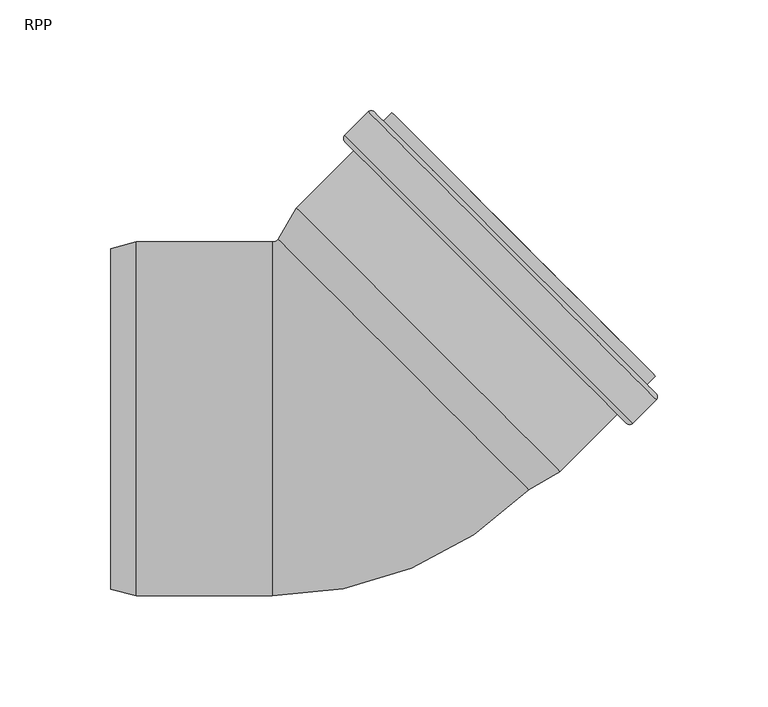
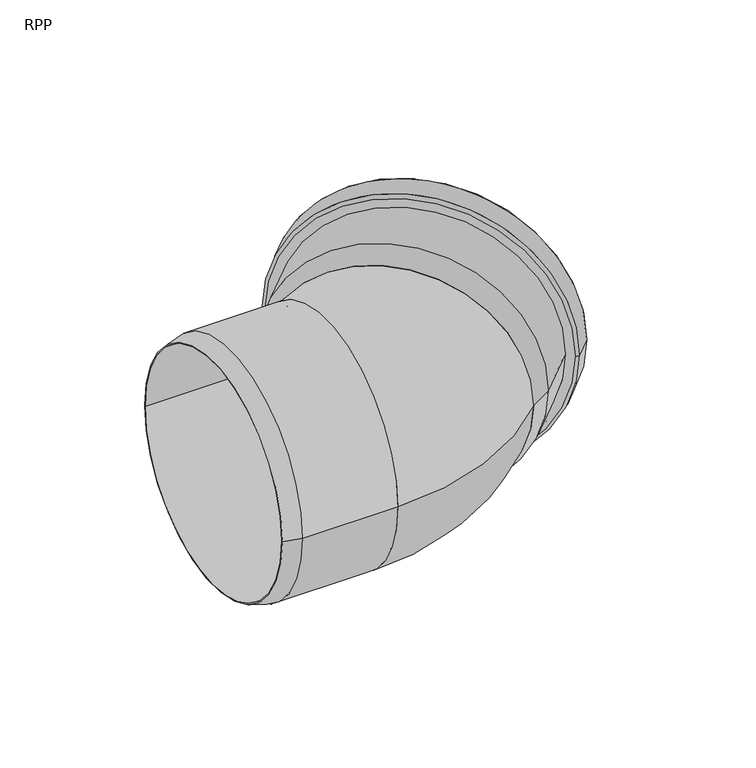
"""IFC4 building model written with IfcOpenShell, lengths in millimetres: pipe fitting geometry, RAUPIANO PLUS Bend : RPP."""

from ifc_helpers import new_model, si_unit, point, frame, origin, place, context, project, spatial, polyline, circle_curve, ellipse_curve, trimmed, source, transform, mapped, element, save
from ifc_brep_helpers import plane_surface, cylinder_surface, revolved_surface, advanced_brep


def rpp_7ac03bf6(model_context):
    return source(origin(), model_context, "Body", "AdvancedBrep", [
        advanced_brep(
        [(78.3165747, -29.110514, 0.0), (-29.110514, 78.3165747, 0.0), (-20.7309585, 92.8303906, 0.0), (92.8303906, -20.7309585, 0.0), (95.2250468, -23.8517352, 0.0), (-23.8517352, 95.2250468, 0.0), (-31.9655121, 81.1715729, 0.0), (81.1715729, -31.9655121, 0.0), (121.1938167, 2.1170347, 0.0), (2.1170347, 121.1938167, 0.0), (138.6593542, 8.5517064, 0.0), (8.5517064, 138.6593542, 0.0), (-1.9841846, 128.1234631, 0.0), (128.1234631, -1.9841846, 0.0), (138.3765115, 19.2997295, 0.0), (19.2997295, 138.3765115, 0.0), (15.4813529, 134.5581349, 0.0), (134.5581349, 15.4813529, 0.0), (129.042702, 15.4813529, 0.0), (15.4813529, 129.042702, 0.0), (22.057446, 135.618795, 0.0), (135.618795, 22.057446, 0.0), (127.062803, 2.4705881, 0.0), (2.4705881, 127.062803, 0.0), (9.6123666, 134.2045815, 0.0), (134.2045815, 9.6123666, 0.0), (7.6324676, 121.1938167, 0.0), (121.1938167, 7.6324676, 0.0), (-1.9841846, 125.295036, 0.0), (125.295036, -1.9841846, 0.0), (138.6593542, 11.3801336, 0.0), (11.3801336, 138.6593542, 0.0), (10.3194734, 134.2045815, 0.0), (134.2045815, 10.3194734, 0.0), (126.3556962, 2.4705881, 0.0), (2.4705881, 126.3556962, 0.0)],
        [
            (0, 1, circle_curve(frame((24.6030304, 24.6030304, 0.0), z_axis=(-0.7071067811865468, -0.7071067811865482, 0.0), x_axis=(-0.7071067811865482, 0.7071067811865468, 0.0)), 75.9624229)),
            (1, 2),
            (2, 3, circle_curve(frame((36.0497161, 36.0497161, 0.0), z_axis=(0.7071067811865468, 0.7071067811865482, 0.0), x_axis=(-0.7071067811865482, 0.7071067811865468, 0.0)), 80.3)),
            (3, 0),
            (4, 5, circle_curve(frame((35.6866558, 35.6866558, 0.0), z_axis=(-0.7071067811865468, -0.7071067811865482, 0.0), x_axis=(-0.7071067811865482, 0.7071067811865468, 0.0)), 84.2)),
            (5, 6),
            (6, 7, circle_curve(frame((24.6030304, 24.6030304, 0.0), z_axis=(0.7071067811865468, 0.7071067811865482, 0.0), x_axis=(-0.7071067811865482, 0.7071067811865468, 0.0)), 80.0)),
            (7, 4),
            (8, 9, circle_curve(frame((61.6554257, 61.6554257, 0.0), z_axis=(-0.7071067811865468, -0.7071067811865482, 0.0), x_axis=(-0.7071067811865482, 0.7071067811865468, 0.0)), 84.2)),
            (9, 5),
            (4, 8),
            (10, 11, circle_curve(frame((73.6055303, 73.6055303, 0.0), z_axis=(-0.7071067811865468, -0.7071067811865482, 0.0), x_axis=(-0.7071067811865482, 0.7071067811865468, 0.0)), 92.0)),
            (11, 12),
            (12, 13, circle_curve(frame((63.0696393, 63.0696393, 0.0), z_axis=(0.7071067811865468, 0.7071067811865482, 0.0), x_axis=(-0.7071067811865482, 0.7071067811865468, 0.0)), 92.0)),
            (13, 10),
            (14, 15, circle_curve(frame((78.8381205, 78.8381205, 0.0), z_axis=(-0.7071067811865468, -0.7071067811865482, 0.0), x_axis=(-0.7071067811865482, 0.7071067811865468, 0.0)), 84.2)),
            (15, 16),
            (16, 17, circle_curve(frame((75.0197439, 75.0197439, 0.0), z_axis=(0.7071067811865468, 0.7071067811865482, 0.0), x_axis=(-0.7071067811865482, 0.7071067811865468, 0.0)), 84.2)),
            (17, 14),
            (18, 19, circle_curve(frame((72.2620274, 72.2620274, 0.0), z_axis=(-0.7071067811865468, -0.7071067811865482, 0.0), x_axis=(-0.7071067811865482, 0.7071067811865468, 0.0)), 80.3)),
            (19, 20),
            (20, 21, circle_curve(frame((78.8381205, 78.8381205, 0.0), z_axis=(0.7071067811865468, 0.7071067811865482, 0.0), x_axis=(-0.7071067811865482, 0.7071067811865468, 0.0)), 80.3)),
            (21, 18),
            (22, 23, circle_curve(frame((64.7666956, 64.7666956, 0.0), z_axis=(-0.7071067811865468, -0.7071067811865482, 0.0), x_axis=(-0.7071067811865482, 0.7071067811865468, 0.0)), 88.1)),
            (23, 24),
            (24, 25, circle_curve(frame((71.908474, 71.908474, 0.0), z_axis=(0.7071067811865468, 0.7071067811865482, 0.0), x_axis=(-0.7071067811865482, 0.7071067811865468, 0.0)), 88.1)),
            (25, 22),
            (2, 26),
            (26, 27, circle_curve(frame((64.4131422, 64.4131422, 0.0), z_axis=(0.7071067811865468, 0.7071067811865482, 0.0), x_axis=(-0.7071067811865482, 0.7071067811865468, 0.0)), 80.3)),
            (27, 3),
            (1, 0, circle_curve(frame((24.6030304, 24.6030304, 0.0), z_axis=(-0.7071067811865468, -0.7071067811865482, 0.0), x_axis=(0.7071067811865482, -0.7071067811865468, 0.0)), 75.9624229)),
            (3, 2, circle_curve(frame((36.0497161, 36.0497161, 0.0), z_axis=(0.7071067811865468, 0.7071067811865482, 0.0), x_axis=(0.7071067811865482, -0.7071067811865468, 0.0)), 80.3)),
            (6, 7, circle_curve(frame((24.6030304, 24.6030304, 0.0), z_axis=(-0.7071067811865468, -0.7071067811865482, 0.0), x_axis=(0.7071067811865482, -0.7071067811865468, 0.0)), 80.0)),
            (5, 4, circle_curve(frame((35.6866558, 35.6866558, 0.0), z_axis=(-0.7071067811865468, -0.7071067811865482, 0.0), x_axis=(0.7071067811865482, -0.7071067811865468, 0.0)), 84.2)),
            (9, 8, circle_curve(frame((61.6554257, 61.6554257, 0.0), z_axis=(-0.7071067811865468, -0.7071067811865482, 0.0), x_axis=(0.7071067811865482, -0.7071067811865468, 0.0)), 84.2)),
            (28, 29, circle_curve(frame((61.6554257, 61.6554257, 0.0), z_axis=(-0.7071067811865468, -0.7071067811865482, 0.0), x_axis=(0.7071067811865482, -0.7071067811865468, 0.0)), 90.0)),
            (29, 28, circle_curve(frame((61.6554257, 61.6554257, 0.0), z_axis=(-0.7071067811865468, -0.7071067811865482, 0.0), x_axis=(-0.7071067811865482, 0.7071067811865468, 0.0)), 90.0)),
            (11, 10, circle_curve(frame((73.6055303, 73.6055303, 0.0), z_axis=(-0.7071067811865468, -0.7071067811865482, 0.0), x_axis=(0.7071067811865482, -0.7071067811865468, 0.0)), 92.0)),
            (13, 12, circle_curve(frame((63.0696393, 63.0696393, 0.0), z_axis=(0.7071067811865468, 0.7071067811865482, 0.0), x_axis=(0.7071067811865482, -0.7071067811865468, 0.0)), 92.0)),
            (30, 31, circle_curve(frame((75.0197439, 75.0197439, 0.0), z_axis=(0.7071067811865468, 0.7071067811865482, 0.0), x_axis=(0.7071067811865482, -0.7071067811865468, 0.0)), 90.0)),
            (31, 30, circle_curve(frame((75.0197439, 75.0197439, 0.0), z_axis=(0.7071067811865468, 0.7071067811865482, 0.0), x_axis=(-0.7071067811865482, 0.7071067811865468, 0.0)), 90.0)),
            (16, 17, circle_curve(frame((75.0197439, 75.0197439, 0.0), z_axis=(-0.7071067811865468, -0.7071067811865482, 0.0), x_axis=(0.7071067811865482, -0.7071067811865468, 0.0)), 84.2)),
            (15, 14, circle_curve(frame((78.8381205, 78.8381205, 0.0), z_axis=(-0.7071067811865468, -0.7071067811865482, 0.0), x_axis=(0.7071067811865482, -0.7071067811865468, 0.0)), 84.2)),
            (20, 21, circle_curve(frame((78.8381205, 78.8381205, 0.0), z_axis=(-0.7071067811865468, -0.7071067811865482, 0.0), x_axis=(0.7071067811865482, -0.7071067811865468, 0.0)), 80.3)),
            (19, 18, circle_curve(frame((72.2620274, 72.2620274, 0.0), z_axis=(-0.7071067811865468, -0.7071067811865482, 0.0), x_axis=(0.7071067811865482, -0.7071067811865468, 0.0)), 80.3)),
            (32, 33, circle_curve(frame((72.2620274, 72.2620274, 0.0), z_axis=(-0.7071067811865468, -0.7071067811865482, 0.0), x_axis=(0.7071067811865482, -0.7071067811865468, 0.0)), 87.6)),
            (33, 32, circle_curve(frame((72.2620274, 72.2620274, 0.0), z_axis=(-0.7071067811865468, -0.7071067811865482, 0.0), x_axis=(-0.7071067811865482, 0.7071067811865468, 0.0)), 87.6)),
            (23, 22, circle_curve(frame((64.7666956, 64.7666956, 0.0), z_axis=(-0.7071067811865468, -0.7071067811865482, 0.0), x_axis=(0.7071067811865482, -0.7071067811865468, 0.0)), 88.1)),
            (25, 24, circle_curve(frame((71.908474, 71.908474, 0.0), z_axis=(0.7071067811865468, 0.7071067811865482, 0.0), x_axis=(0.7071067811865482, -0.7071067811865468, 0.0)), 88.1)),
            (34, 35, circle_curve(frame((64.4131422, 64.4131422, 0.0), z_axis=(0.7071067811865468, 0.7071067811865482, 0.0), x_axis=(0.7071067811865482, -0.7071067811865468, 0.0)), 87.6)),
            (35, 34, circle_curve(frame((64.4131422, 64.4131422, 0.0), z_axis=(0.7071067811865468, 0.7071067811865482, 0.0), x_axis=(-0.7071067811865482, 0.7071067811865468, 0.0)), 87.6)),
            (26, 27, circle_curve(frame((64.4131422, 64.4131422, 0.0), z_axis=(-0.7071067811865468, -0.7071067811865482, 0.0), x_axis=(0.7071067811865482, -0.7071067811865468, 0.0)), 80.3)),
            (12, 28, circle_curve(frame((-0.569971, 126.7092496, 0.0), z_axis=(0.0, 0.0, 1.0), x_axis=(0.7071067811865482, -0.7071067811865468, 0.0)), 2.0)),
            (29, 13, circle_curve(frame((126.7092496, -0.569971, 0.0), z_axis=(0.0, 0.0, 1.0), x_axis=(-0.7071067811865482, 0.7071067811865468, 0.0)), 2.0)),
            (31, 11, circle_curve(frame((9.96592, 137.2451406, 0.0), z_axis=(0.0, 0.0, 1.0), x_axis=(0.7071067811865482, -0.7071067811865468, 0.0)), 2.0)),
            (10, 30, circle_curve(frame((137.2451406, 9.96592, 0.0), z_axis=(0.0, 0.0, 1.0), x_axis=(-0.7071067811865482, 0.7071067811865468, 0.0)), 2.0)),
            (24, 32, circle_curve(frame((9.96592, 133.8510281, 0.0), z_axis=(0.0, 0.0, -1.0), x_axis=(0.7071067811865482, -0.7071067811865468, 0.0)), 0.5)),
            (33, 25, circle_curve(frame((133.8510281, 9.96592, 0.0), z_axis=(0.0, 0.0, -1.0), x_axis=(-0.7071067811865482, 0.7071067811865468, 0.0)), 0.5)),
            (35, 23, circle_curve(frame((2.8241415, 126.7092496, 0.0), z_axis=(0.0, 0.0, -1.0), x_axis=(0.7071067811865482, -0.7071067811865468, 0.0)), 0.5)),
            (22, 34, circle_curve(frame((126.7092496, 2.8241415, 0.0), z_axis=(0.0, 0.0, -1.0), x_axis=(-0.7071067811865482, 0.7071067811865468, 0.0)), 0.5)),
        ],
        [
            revolved_surface(polyline([(-20.7309585, 92.8303906, 0.0), (-29.110514, 78.3165747, 0.0)]), (24.6030304, 24.6030304, 0.0), (0.7071067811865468, 0.7071067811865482, 0.0)),
            revolved_surface(polyline([(-31.9655121, 81.1715729, 0.0), (-23.8517352, 95.2250468, 0.0)]), (24.6030304, 24.6030304, 0.0), (0.7071067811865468, 0.7071067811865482, 0.0)),
            cylinder_surface(frame((24.6030304, 24.6030304, 0.0), z_axis=(0.7071067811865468, 0.7071067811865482, 0.0), x_axis=(-0.7071067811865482, 0.7071067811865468, 0.0)), 84.2),
            cylinder_surface(frame((24.6030304, 24.6030304, 0.0), z_axis=(0.7071067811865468, 0.7071067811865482, 0.0), x_axis=(-0.7071067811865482, 0.7071067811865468, 0.0)), 92.0),
            revolved_surface(polyline([(22.057445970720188, 135.61879502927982, 0.0), (15.481352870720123, 129.04270192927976, 0.0)]), (24.6030304, 24.6030304, 0.0), (0.7071067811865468, 0.7071067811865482, 0.0)),
            revolved_surface(polyline([(9.612366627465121, 134.20458147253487, 0.0), (2.470588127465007, 127.06280297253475, 0.0)]), (24.6030304, 24.6030304, 0.0), (0.7071067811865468, 0.7071067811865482, 0.0)),
            revolved_surface(polyline([(7.632467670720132, 121.19381672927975, 0.0), (-20.73095847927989, 92.83039057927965, 0.0)]), (24.6030304, 24.6030304, 0.0), (0.7071067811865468, 0.7071067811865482, 0.0)),
            revolved_surface(polyline([(92.8303906, -20.7309585, 0.0), (78.3165747, -29.110514, 0.0)]), (24.6030304, 24.6030304, 0.0), (0.7071067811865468, 0.7071067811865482, 0.0)),
            plane_surface(frame((24.6030304, 24.6030304, 0.0), z_axis=(-0.7071067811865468, -0.7071067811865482, 0.0), x_axis=(0.7071067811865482, -0.7071067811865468, 0.0))),
            revolved_surface(polyline([(81.1715729, -31.9655121, 0.0), (95.2250468, -23.8517352, 0.0)]), (24.6030304, 24.6030304, 0.0), (0.7071067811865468, 0.7071067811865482, 0.0)),
            cylinder_surface(frame((24.6030304, 24.6030304, 0.0), z_axis=(0.7071067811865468, 0.7071067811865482, 0.0), x_axis=(0.7071067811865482, -0.7071067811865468, 0.0)), 84.2),
            plane_surface(frame((61.6554257, 61.6554257, 0.0), z_axis=(-0.7071067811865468, -0.7071067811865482, 0.0), x_axis=(0.7071067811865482, -0.7071067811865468, 0.0))),
            cylinder_surface(frame((24.6030304, 24.6030304, 0.0), z_axis=(0.7071067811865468, 0.7071067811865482, 0.0), x_axis=(0.7071067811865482, -0.7071067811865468, 0.0)), 92.0),
            plane_surface(frame((75.0197439, 75.0197439, 0.0), z_axis=(0.7071067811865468, 0.7071067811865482, 0.0), x_axis=(0.7071067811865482, -0.7071067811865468, 0.0))),
            plane_surface(frame((78.8381205, 78.8381205, 0.0), z_axis=(0.7071067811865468, 0.7071067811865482, 0.0), x_axis=(0.7071067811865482, -0.7071067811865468, 0.0))),
            revolved_surface(polyline([(135.61879502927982, 22.05744597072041, 0.0), (129.04270192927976, 15.481352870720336, 0.0)]), (24.6030304, 24.6030304, 0.0), (0.7071067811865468, 0.7071067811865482, 0.0)),
            plane_surface(frame((72.2620274, 72.2620274, 0.0), z_axis=(-0.7071067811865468, -0.7071067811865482, 0.0), x_axis=(0.7071067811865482, -0.7071067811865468, 0.0))),
            revolved_surface(polyline([(134.20458147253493, 9.612366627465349, 0.0), (127.0628029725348, 2.47058812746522, 0.0)]), (24.6030304, 24.6030304, 0.0), (0.7071067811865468, 0.7071067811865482, 0.0)),
            plane_surface(frame((64.4131422, 64.4131422, 0.0), z_axis=(0.7071067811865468, 0.7071067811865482, 0.0), x_axis=(0.7071067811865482, -0.7071067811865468, 0.0))),
            revolved_surface(polyline([(121.19381672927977, 7.632467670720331, 0.0), (92.83039057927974, -20.730958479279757, 0.0)]), (24.6030304, 24.6030304, 0.0), (0.7071067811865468, 0.7071067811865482, 0.0)),
            revolved_surface(trimmed(ellipse_curve(frame((-0.569971, 126.7092496, 0.0), z_axis=(0.0, 0.0, -1.0), x_axis=(0.7071067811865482, -0.7071067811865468, 0.0)), 2.0, 2.0), [point((-1.9841846, 125.295036, 0.0))], [point((-1.9841846, 128.1234631, 0.0))], True, "CARTESIAN"), (24.6030304, 24.6030304, 0.0), (0.7071067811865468, 0.7071067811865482, 0.0)),
            revolved_surface(trimmed(ellipse_curve(frame((9.96592, 137.2451406, 0.0), z_axis=(0.0, 0.0, -1.0), x_axis=(0.7071067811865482, -0.7071067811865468, 0.0)), 2.0, 2.0), [point((8.5517064, 138.6593542, 0.0))], [point((11.3801336, 138.6593542, 0.0))], True, "CARTESIAN"), (24.6030304, 24.6030304, 0.0), (0.7071067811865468, 0.7071067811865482, 0.0)),
            revolved_surface(trimmed(ellipse_curve(frame((9.96592, 133.8510281, 0.0), z_axis=(0.0, 0.0, 1.0), x_axis=(0.7071067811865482, -0.7071067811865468, 0.0)), 0.5, 0.5), [point((10.3194734, 134.2045815, 0.0))], [point((9.6123666, 134.2045815, 0.0))], True, "CARTESIAN"), (24.6030304, 24.6030304, 0.0), (0.7071067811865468, 0.7071067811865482, 0.0)),
            revolved_surface(trimmed(ellipse_curve(frame((2.8241415, 126.7092496, 0.0), z_axis=(0.0, 0.0, 1.0), x_axis=(0.7071067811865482, -0.7071067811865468, 0.0)), 0.5, 0.5), [point((2.4705881, 127.062803, 0.0))], [point((2.4705881, 126.3556962, 0.0))], True, "CARTESIAN"), (24.6030304, 24.6030304, 0.0), (0.7071067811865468, 0.7071067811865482, 0.0)),
            revolved_surface(trimmed(ellipse_curve(frame((126.7092496, -0.569971, 0.0), z_axis=(0.0, 0.0, 1.0), x_axis=(-0.7071067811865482, 0.7071067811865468, 0.0)), 2.0, 2.0), [point((125.295036, -1.9841846, 0.0))], [point((128.1234631, -1.9841846, 0.0))], True, "CARTESIAN"), (24.6030304, 24.6030304, 0.0), (0.7071067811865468, 0.7071067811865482, 0.0)),
            revolved_surface(trimmed(ellipse_curve(frame((137.2451406, 9.96592, 0.0), z_axis=(0.0, 0.0, 1.0), x_axis=(-0.7071067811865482, 0.7071067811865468, 0.0)), 2.0, 2.0), [point((138.6593542, 8.5517064, 0.0))], [point((138.6593542, 11.3801336, 0.0))], True, "CARTESIAN"), (24.6030304, 24.6030304, 0.0), (0.7071067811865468, 0.7071067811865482, 0.0)),
            revolved_surface(trimmed(ellipse_curve(frame((133.8510281, 9.96592, 0.0), z_axis=(0.0, 0.0, -1.0), x_axis=(-0.7071067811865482, 0.7071067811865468, 0.0)), 0.5, 0.5), [point((134.2045815, 10.3194734, 0.0))], [point((134.2045815, 9.6123666, 0.0))], True, "CARTESIAN"), (24.6030304, 24.6030304, 0.0), (0.7071067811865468, 0.7071067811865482, 0.0)),
            revolved_surface(trimmed(ellipse_curve(frame((126.7092496, 2.8241415, 0.0), z_axis=(0.0, 0.0, -1.0), x_axis=(-0.7071067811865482, 0.7071067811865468, 0.0)), 0.5, 0.5), [point((127.062803, 2.4705881, 0.0))], [point((126.3556962, 2.4705881, 0.0))], True, "CARTESIAN"), (24.6030304, 24.6030304, 0.0), (0.7071067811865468, 0.7071067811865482, 0.0)),
        ],
        [
            (0, [[1, 2, 3, 4]]),
            (1, [[5, 6, 7, 8]]),
            (2, [[9, 10, -5, 11]]),
            (3, [[12, 13, 14, 15]]),
            (2, [[16, 17, 18, 19]]),
            (4, [[20, 21, 22, 23]]),
            (5, [[24, 25, 26, 27]]),
            (6, [[-3, 28, 29, 30]]),
            (7, [[31, -4, 32, -2]]),
            (8, [[33, -7], [-31, -1]]),
            (9, [[34, -8, -33, -6]]),
            (10, [[35, -11, -34, -10]]),
            (11, [[36, 37], [-35, -9]]),
            (12, [[38, -15, 39, -13]]),
            (13, [[40, 41], [42, -18]]),
            (10, [[43, -19, -42, -17]]),
            (14, [[-43, -16], [44, -22]]),
            (15, [[45, -23, -44, -21]]),
            (16, [[46, 47], [-45, -20]]),
            (17, [[48, -27, 49, -25]]),
            (18, [[50, 51], [52, -29]]),
            (19, [[-32, -30, -52, -28]]),
            (20, [[-14, 53, -37, 54]]),
            (21, [[-41, 55, -12, 56]]),
            (22, [[-26, 57, -47, 58]]),
            (23, [[-51, 59, -24, 60]]),
            (24, [[-39, -54, -36, -53]]),
            (25, [[-40, -56, -38, -55]]),
            (26, [[-49, -58, -46, -57]]),
            (27, [[-50, -60, -48, -59]]),
        ],
    ),
        advanced_brep(
        [(-34.7939392, 76.1, 0.0), (-34.7939392, -76.1, 0.0), (-107.7939392, -76.1, 0.0), (-107.7939392, 76.1, 0.0), (-96.2245817, 80.0, 0.0), (-96.2245817, -80.0, 0.0), (-34.7939392, -80.0, 0.0), (-34.7939392, 80.0, 0.0), (-107.7939392, 76.9, 0.0), (-107.7939392, -76.9, 0.0)],
        [
            (0, 1, circle_curve(frame((-34.7939392, 0.0, 0.0), z_axis=(1.0, 0.0, 0.0), x_axis=(0.0, -1.0, 0.0)), 76.1)),
            (1, 2),
            (2, 3, circle_curve(frame((-107.7939392, 0.0, 0.0), z_axis=(-1.0, 0.0, 0.0), x_axis=(0.0, -1.0, 0.0)), 76.1)),
            (3, 0),
            (4, 5, circle_curve(frame((-96.2245817, 0.0, 0.0), z_axis=(1.0, 0.0, 0.0), x_axis=(0.0, -1.0, 0.0)), 80.0)),
            (5, 6),
            (6, 7, circle_curve(frame((-34.7939392, 0.0, 0.0), z_axis=(-1.0, 0.0, 0.0), x_axis=(0.0, -1.0, 0.0)), 80.0)),
            (7, 4),
            (8, 9, circle_curve(frame((-107.7939392, 0.0, 0.0), z_axis=(1.0, 0.0, 0.0), x_axis=(0.0, -1.0, 0.0)), 76.9)),
            (9, 5),
            (4, 8),
            (1, 0, circle_curve(frame((-34.7939392, 0.0, 0.0), z_axis=(1.0, 0.0, 0.0), x_axis=(0.0, 1.0, 0.0)), 76.1)),
            (3, 2, circle_curve(frame((-107.7939392, 0.0, 0.0), z_axis=(-1.0, 0.0, 0.0), x_axis=(0.0, 1.0, 0.0)), 76.1)),
            (6, 7, circle_curve(frame((-34.7939392, 0.0, 0.0), z_axis=(1.0, 0.0, 0.0), x_axis=(0.0, 1.0, 0.0)), 80.0)),
            (5, 4, circle_curve(frame((-96.2245817, 0.0, 0.0), z_axis=(1.0, 0.0, 0.0), x_axis=(0.0, 1.0, 0.0)), 80.0)),
            (9, 8, circle_curve(frame((-107.7939392, 0.0, 0.0), z_axis=(1.0, 0.0, 0.0), x_axis=(0.0, 1.0, 0.0)), 76.9)),
        ],
        [
            revolved_surface(polyline([(-107.7939392, -76.1, 0.0), (-34.7939392, -76.1, 0.0)]), (-34.7939392, 0.0, 0.0), (-1.0, 0.0, 0.0)),
            cylinder_surface(frame((-34.7939392, 0.0, 0.0), z_axis=(-1.0, 0.0, 0.0), x_axis=(0.0, -1.0, 0.0)), 80.0),
            revolved_surface(polyline([(-96.2245817, -80.0, 0.0), (-107.7939392, -76.9, 0.0)]), (-34.7939392, 0.0, 0.0), (-1.0, 0.0, 0.0)),
            revolved_surface(polyline([(-107.7939392, 76.1, 0.0), (-34.7939392, 76.1, 0.0)]), (-34.7939392, 0.0, 0.0), (-1.0, 0.0, 0.0)),
            plane_surface(frame((-34.7939392, 0.0, 0.0), z_axis=(1.0, 0.0, 0.0), x_axis=(0.0, 1.0, 0.0))),
            cylinder_surface(frame((-34.7939392, 0.0, 0.0), z_axis=(-1.0, 0.0, 0.0), x_axis=(0.0, 1.0, 0.0)), 80.0),
            revolved_surface(polyline([(-96.2245817, 80.0, 0.0), (-107.7939392, 76.9, 0.0)]), (-34.7939392, 0.0, 0.0), (-1.0, 0.0, 0.0)),
            plane_surface(frame((-107.7939392, 0.0, 0.0), z_axis=(-1.0, 0.0, 0.0), x_axis=(0.0, 1.0, 0.0))),
        ],
        [
            (0, [[1, 2, 3, 4]]),
            (1, [[5, 6, 7, 8]]),
            (2, [[9, 10, -5, 11]]),
            (3, [[12, -4, 13, -2]]),
            (4, [[14, -7], [-12, -1]]),
            (5, [[15, -8, -14, -6]]),
            (6, [[16, -11, -15, -10]]),
            (7, [[-16, -9], [-13, -3]]),
        ],
    ),
        advanced_brep(
        [(-34.7939392, -80.0, 0.0), (-34.7939392, 80.0, 0.0), (-34.7939392, -76.1, 0.0), (-34.7939392, 76.1, 0.0), (81.1715729, -31.9655121, 0.0), (-31.9655121, 81.1715729, 0.0), (78.4138564, -29.2077957, 0.0), (-29.2077957, 78.4138564, 0.0)],
        [
            (0, 1, circle_curve(frame((-34.7939392, 0.0, 0.0), z_axis=(-1.0, 0.0, 0.0), x_axis=(0.0, 1.0, 0.0)), 80.0)),
            (1, 0, circle_curve(frame((-34.7939392, 0.0, 0.0), z_axis=(-1.0, 0.0, 0.0), x_axis=(0.0, 1.0, 0.0)), 80.0)),
            (2, 3, circle_curve(frame((-34.7939392, 0.0, 0.0), z_axis=(1.0, 0.0, 0.0), x_axis=(0.0, 1.0, 0.0)), 76.1)),
            (3, 2, circle_curve(frame((-34.7939392, 0.0, 0.0), z_axis=(1.0, 0.0, 0.0), x_axis=(0.0, 1.0, 0.0)), 76.1)),
            (4, 5, circle_curve(frame((24.6030304, 24.6030304, 0.0), z_axis=(0.7071067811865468, 0.7071067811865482, 0.0), x_axis=(-0.7071067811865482, 0.7071067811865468, 0.0)), 80.0)),
            (5, 4, circle_curve(frame((24.6030304, 24.6030304, 0.0), z_axis=(0.7071067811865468, 0.7071067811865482, 0.0), x_axis=(-0.7071067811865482, 0.7071067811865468, 0.0)), 80.0)),
            (6, 7, circle_curve(frame((24.6030304, 24.6030304, 0.0), z_axis=(-0.7071067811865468, -0.7071067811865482, 0.0), x_axis=(-0.7071067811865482, 0.7071067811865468, 0.0)), 76.1)),
            (7, 6, circle_curve(frame((24.6030304, 24.6030304, 0.0), z_axis=(-0.7071067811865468, -0.7071067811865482, 0.0), x_axis=(-0.7071067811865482, 0.7071067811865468, 0.0)), 76.1)),
            (7, 3, circle_curve(frame((-34.7939392, 84.0, 0.0), z_axis=(0.0, 0.0, -1.0), x_axis=(0.0, -1.0, 0.0)), 7.9)),
            (2, 6, circle_curve(frame((-34.7939392, 84.0, 0.0), z_axis=(0.0, 0.0, 1.0), x_axis=(0.0, -1.0, 0.0)), 160.1)),
            (5, 1, circle_curve(frame((-34.7939392, 84.0, 0.0), z_axis=(0.0, 0.0, -1.0), x_axis=(0.0, -1.0, 0.0)), 4.0)),
            (0, 4, circle_curve(frame((-34.7939392, 84.0, 0.0), z_axis=(0.0, 0.0, 1.0), x_axis=(0.0, -1.0, 0.0)), 164.0)),
        ],
        [
            plane_surface(frame((-34.7939392, 0.0, 0.0), z_axis=(-1.0, 0.0, 0.0), x_axis=(0.0, 0.0, 1.0))),
            plane_surface(frame((24.6030304, 24.6030304, 0.0), z_axis=(0.7071067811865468, 0.7071067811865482, 0.0), x_axis=(0.0, 0.0, 1.0))),
            revolved_surface(trimmed(ellipse_curve(frame((-34.7939392, 0.0, 0.0), z_axis=(1.0, 0.0, 0.0), x_axis=(0.0, 1.0, 0.0)), 76.1, 76.1), [point((-34.7939392, -76.1, 0.0))], [point((-34.7939392, 76.1, 0.0))], True, "CARTESIAN"), (-34.7939392, 84.0, 0.0), (0.0, 0.0, 1.0)),
            revolved_surface(trimmed(ellipse_curve(frame((-34.7939392, 0.0, 0.0), z_axis=(1.0, 0.0, 0.0), x_axis=(0.0, 1.0, 0.0)), 76.1, 76.1), [point((-34.7939392, 76.1, 0.0))], [point((-34.7939392, -76.1, 0.0))], True, "CARTESIAN"), (-34.7939392, 84.0, 0.0), (0.0, 0.0, 1.0)),
            revolved_surface(trimmed(ellipse_curve(frame((-34.7939392, 0.0, 0.0), z_axis=(-1.0, 0.0, 0.0), x_axis=(0.0, 1.0, 0.0)), 80.0, 80.0), [point((-34.7939392, -80.0, 0.0))], [point((-34.7939392, 80.0, 0.0))], True, "CARTESIAN"), (-34.7939392, 84.0, 0.0), (0.0, 0.0, 1.0)),
            revolved_surface(trimmed(ellipse_curve(frame((-34.7939392, 0.0, 0.0), z_axis=(-1.0, 0.0, 0.0), x_axis=(0.0, 1.0, 0.0)), 80.0, 80.0), [point((-34.7939392, 80.0, 0.0))], [point((-34.7939392, -80.0, 0.0))], True, "CARTESIAN"), (-34.7939392, 84.0, 0.0), (0.0, 0.0, 1.0)),
        ],
        [
            (0, [[1, 2], [3, 4]]),
            (1, [[5, 6], [7, 8]]),
            (2, [[9, -3, 10, -8]]),
            (3, [[-10, -4, -9, -7]]),
            (4, [[11, -1, 12, -6]]),
            (5, [[-12, -2, -11, -5]]),
        ],
    ),
    ])


if __name__ == "__main__":
    model = new_model("IFC4")
    model_context = context("Model", 3, world=origin())
    ifc_project = project(units=[si_unit("LENGTHUNIT", "METRE", prefix="MILLI")], contexts=[model_context])
    site = spatial("IfcSite", under=ifc_project)
    building = spatial("IfcBuilding", under=site)
    placement = place(None, origin())
    rpp_shape = rpp_7ac03bf6(model_context)
    element("IfcPipeFitting", 1, ObjectType="RAUPIANO PLUS Bend : RPP", at=placement, inside=building, context=model_context, shape_type="MappedRepresentation", body=[
        mapped(rpp_shape, transform((0.0, 0.0, 0.0), x_axis=(1.0, 0.0, 0.0), y_axis=(0.0, 1.0, 0.0), z_axis=(0.0, 0.0, 1.0))),
    ])
    save(model, "model.ifc")
